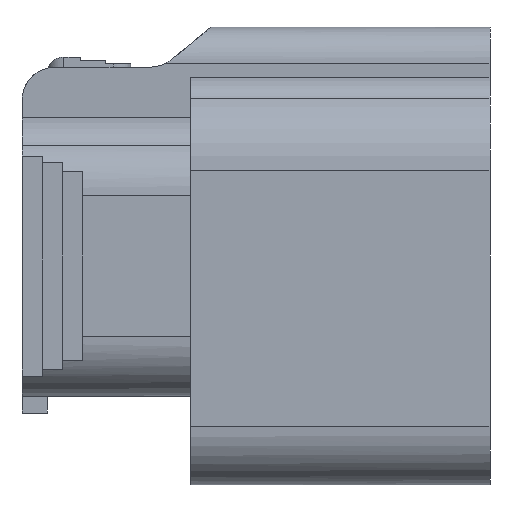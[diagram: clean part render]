
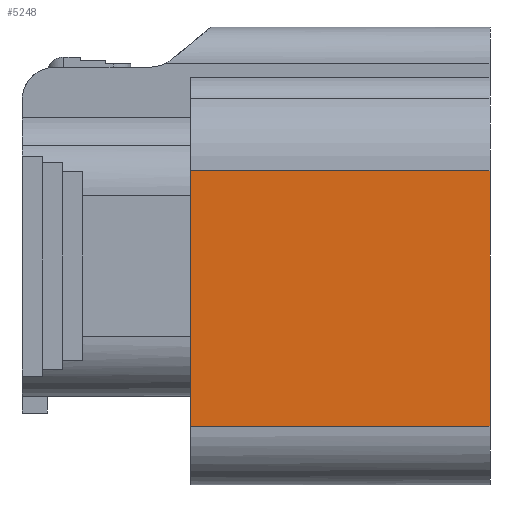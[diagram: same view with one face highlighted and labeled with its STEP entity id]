
A CAD part, front view. The second image highlights one B-rep face of the part: STEP entity #5248.
In plain terms, the highlighted planar face has unit normal (0, -1, 0).
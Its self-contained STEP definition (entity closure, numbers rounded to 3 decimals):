
#5228=AXIS2_PLACEMENT_3D('Plane Axis2P3D',#5225,#5226,#5227) ;
#3070=CARTESIAN_POINT('Vertex',(16.7,-10.8,5.7)) ;
#3073=CARTESIAN_POINT('Line Origine',(16.7,-10.8,-1.95)) ;
#3077=CARTESIAN_POINT('Vertex',(16.7,-10.8,-9.6)) ;
#5210=CARTESIAN_POINT('Vertex',(-1.2,-10.8,5.7)) ;
#5213=CARTESIAN_POINT('Line Origine',(7.75,-10.8,5.7)) ;
#5225=CARTESIAN_POINT('Axis2P3D Location',(0.,-10.8,10.8)) ;
#5230=CARTESIAN_POINT('Line Origine',(-1.2,-10.8,-1.95)) ;
#5234=CARTESIAN_POINT('Vertex',(-1.2,-10.8,-9.6)) ;
#5237=CARTESIAN_POINT('Line Origine',(7.75,-10.8,-9.6)) ;
#3074=DIRECTION('Vector Direction',(0.,0.,-1.)) ;
#5214=DIRECTION('Vector Direction',(1.,0.,0.)) ;
#5226=DIRECTION('Axis2P3D Direction',(0.,-1.,0.)) ;
#5227=DIRECTION('Axis2P3D XDirection',(0.,0.,-1.)) ;
#5231=DIRECTION('Vector Direction',(0.,0.,-1.)) ;
#5238=DIRECTION('Vector Direction',(1.,0.,0.)) ;
#3075=VECTOR('Line Direction',#3074,1.) ;
#5215=VECTOR('Line Direction',#5214,1.) ;
#5232=VECTOR('Line Direction',#5231,1.) ;
#5239=VECTOR('Line Direction',#5238,1.) ;
#5243=ORIENTED_EDGE('',*,*,#5236,.T.) ;
#5244=ORIENTED_EDGE('',*,*,#5241,.T.) ;
#5245=ORIENTED_EDGE('',*,*,#3079,.F.) ;
#5246=ORIENTED_EDGE('',*,*,#5217,.F.) ;
#5248=ADVANCED_FACE('\X2\FF8AFF9FFF70FF82\X0\ \X2\FF8EFF9EFF83FF9EFF68FF70\X0\',(#5247),#5229,.T.) ;
#3079=EDGE_CURVE('',#3071,#3078,#3076,.T.) ;
#5217=EDGE_CURVE('',#5211,#3071,#5216,.T.) ;
#5236=EDGE_CURVE('',#5211,#5235,#5233,.T.) ;
#5241=EDGE_CURVE('',#5235,#3078,#5240,.T.) ;
#5242=EDGE_LOOP('',(#5243,#5244,#5245,#5246)) ;
#5247=FACE_OUTER_BOUND('',#5242,.T.) ;
#3076=LINE('Line',#3073,#3075) ;
#5216=LINE('Line',#5213,#5215) ;
#5233=LINE('Line',#5230,#5232) ;
#5240=LINE('Line',#5237,#5239) ;
#5229=PLANE('',#5228) ;
#3071=VERTEX_POINT('',#3070) ;
#3078=VERTEX_POINT('',#3077) ;
#5211=VERTEX_POINT('',#5210) ;
#5235=VERTEX_POINT('',#5234) ;
